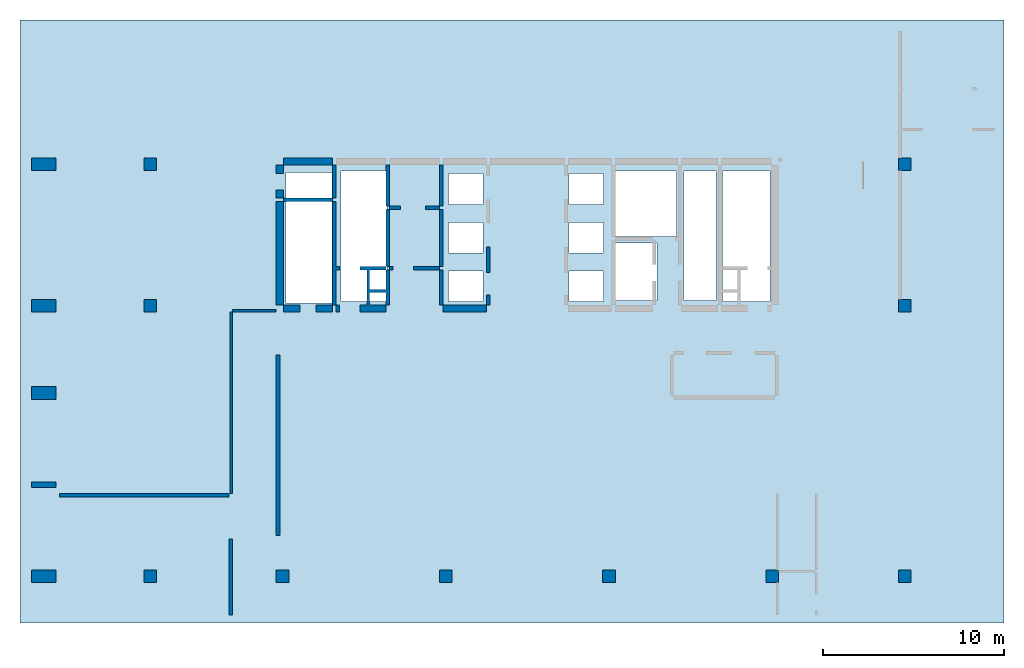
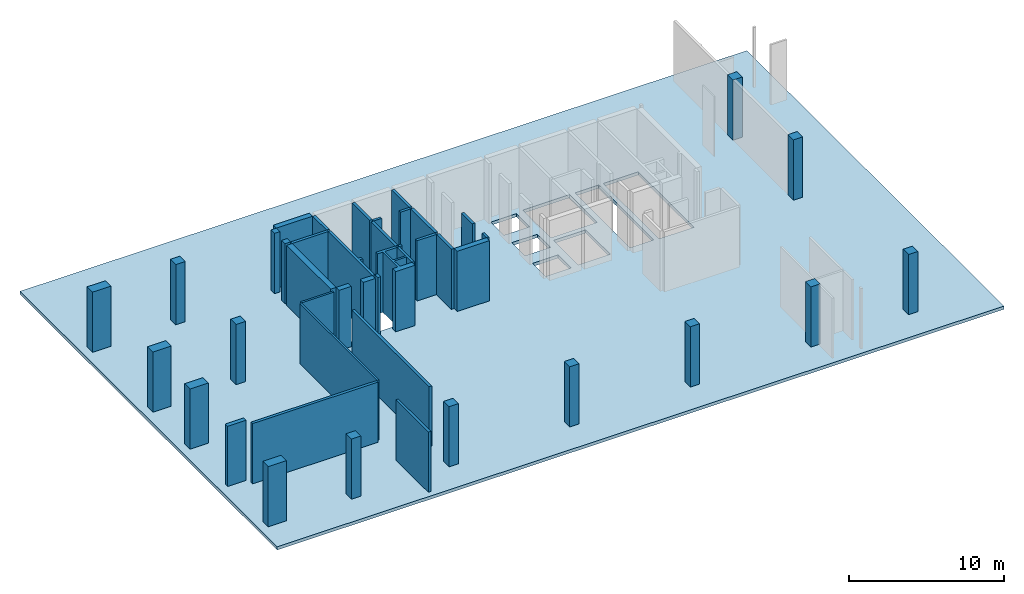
# One storey, part 1 of 2: 29 walls, 14 columns, 1 slab.
"""IFC4 building model written with IfcOpenShell, lengths in millimetres."""

from ifc_helpers import new_model, si_unit, frame, origin, place, context, project, spatial, triangles, element, save


model = new_model("IFC4")

# Units and contexts
model_context = context("Model", 3, precision=0.001, world=origin())
ifc_project = project(units=[si_unit("LENGTHUNIT", "METRE", prefix="MILLI"), si_unit("AREAUNIT", "SQUARE_METRE"), si_unit("VOLUMEUNIT", "CUBIC_METRE")], contexts=[model_context])

# Site, building, storey
site_placement = place(None, origin())
site = spatial("IfcSite", under=ifc_project, at=site_placement, Name="Site", CompositionType="ELEMENT")
building_placement = place(site_placement, origin())
building = spatial("IfcBuilding", under=site, at=building_placement, Name="INNOCEAN", CompositionType="ELEMENT")
storey_placement = place(building_placement, frame((0.0, 0.0, -5000.0)))
storey = spatial("IfcBuildingStorey", under=building, at=storey_placement, Name="B1", CompositionType="ELEMENT", Elevation=-5000.0)

# Columns
column_1_placement = place(storey_placement, origin())
element("IfcColumn", 1, at=column_1_placement, inside=storey, Name="B1_Columns_B1_001", context=model_context, shape_type="Tessellation", body=[
    triangles([(40114.8, 2023.7, 0.0), (40114.8, 2722.3, 4750.0), (40114.8, 2722.3, 0.0), (40114.8, 2023.7, 4750.0), (40813.0, 2722.3, 4750.0), (40813.0, 2023.7, 0.0), (40813.0, 2722.3, 0.0), (40813.0, 2023.7, 4750.0)], [[1, 2, 3], [1, 4, 2], [5, 6, 7], [8, 6, 5], [6, 8, 1], [1, 8, 4], [5, 7, 3], [5, 3, 2], [3, 7, 1], [1, 7, 6], [5, 2, 4], [5, 4, 8]], closed=True),
])
column_2_placement = place(storey_placement, origin())
element("IfcColumn", 2, at=column_2_placement, inside=storey, Name="B1_Columns_B1_002", context=model_context, shape_type="Tessellation", body=[
    triangles([(5843.1, 24721.0, 0.0), (5843.1, 24721.0, 4750.0), (5843.1, 25419.5, 0.0), (5843.1, 25419.5, 4750.0), (6541.2, 24721.0, 4750.0), (6541.2, 24721.0, 0.0), (6541.2, 25419.5, 0.0), (6541.2, 25419.5, 4750.0)], [[1, 2, 3], [3, 2, 4], [5, 6, 7], [5, 7, 8], [6, 5, 1], [1, 5, 2], [8, 7, 3], [8, 3, 4], [1, 3, 6], [3, 7, 6], [4, 2, 5], [8, 4, 5]], closed=True),
])
column_3_placement = place(storey_placement, origin())
element("IfcColumn", 3, at=column_3_placement, inside=storey, Name="B1_Columns_B1_003", context=model_context, shape_type="Tessellation", body=[
    triangles([(5843.1, 16922.4, 0.0), (5843.1, 16922.4, 4750.0), (5843.1, 17620.9, 0.0), (5843.1, 17620.9, 4750.0), (6541.2, 16922.4, 4750.0), (6541.2, 16922.4, 0.0), (6541.2, 17620.9, 0.0), (6541.2, 17620.9, 4750.0)], [[1, 2, 3], [3, 2, 4], [5, 6, 7], [5, 7, 8], [6, 5, 1], [1, 5, 2], [8, 7, 3], [8, 3, 4], [1, 3, 6], [3, 7, 6], [4, 2, 5], [8, 4, 5]], closed=True),
])
column_4_placement = place(storey_placement, origin())
element("IfcColumn", 4, at=column_4_placement, inside=storey, Name="B1_Columns_B1_004", context=model_context, shape_type="Tessellation", body=[
    triangles([(47413.4, 24721.0, 0.0), (47413.4, 24721.0, 4750.0), (47413.4, 25419.5, 0.0), (47413.4, 25419.5, 4750.0), (48111.6, 24721.0, 4750.0), (48111.6, 24721.0, 0.0), (48111.6, 25419.5, 0.0), (48111.6, 25419.5, 4750.0)], [[1, 2, 3], [3, 2, 4], [5, 6, 7], [5, 7, 8], [6, 5, 1], [1, 5, 2], [8, 7, 3], [8, 3, 4], [1, 3, 6], [3, 7, 6], [4, 2, 5], [8, 4, 5]], closed=True),
])
column_5_placement = place(storey_placement, origin())
element("IfcColumn", 5, at=column_5_placement, inside=storey, Name="B1_Columns_B1_005", context=model_context, shape_type="Tessellation", body=[
    triangles([(47413.4, 16922.4, 0.0), (47413.4, 16922.4, 4750.0), (47413.4, 17620.9, 0.0), (47413.4, 17620.9, 4750.0), (48111.6, 16922.4, 4750.0), (48111.6, 16922.4, 0.0), (48111.6, 17620.9, 0.0), (48111.6, 17620.9, 4750.0)], [[1, 2, 3], [3, 2, 4], [5, 6, 7], [5, 7, 8], [6, 5, 1], [1, 5, 2], [8, 7, 3], [8, 3, 4], [1, 3, 6], [3, 7, 6], [4, 2, 5], [8, 4, 5]], closed=True),
])
column_6_placement = place(storey_placement, origin())
element("IfcColumn", 6, at=column_6_placement, inside=storey, Name="B1_Columns_B1_006", context=model_context, shape_type="Tessellation", body=[
    triangles([(13129.0, 2023.7, 0.0), (13129.0, 2722.3, 4750.0), (13129.0, 2722.3, 0.0), (13129.0, 2023.7, 4750.0), (13827.2, 2722.3, 4750.0), (13827.2, 2023.7, 0.0), (13827.2, 2722.3, 0.0), (13827.2, 2023.7, 4750.0)], [[1, 2, 3], [1, 4, 2], [5, 6, 7], [8, 6, 5], [6, 8, 1], [1, 8, 4], [5, 7, 3], [5, 3, 2], [3, 7, 1], [1, 7, 6], [5, 2, 4], [5, 4, 8]], closed=True),
])
column_7_placement = place(storey_placement, origin())
element("IfcColumn", 7, at=column_7_placement, inside=storey, Name="B1_Columns_B1_007", context=model_context, shape_type="Tessellation", body=[
    triangles([(5843.1, 2023.7, 0.0), (5843.1, 2722.3, 4750.0), (5843.1, 2722.3, 0.0), (5843.1, 2023.7, 4750.0), (6541.2, 2722.3, 4750.0), (6541.2, 2023.7, 0.0), (6541.2, 2722.3, 0.0), (6541.2, 2023.7, 4750.0)], [[1, 2, 3], [1, 4, 2], [5, 6, 7], [8, 6, 5], [6, 8, 1], [1, 8, 4], [5, 7, 3], [5, 3, 2], [1, 3, 6], [3, 7, 6], [2, 4, 8], [5, 2, 8]], closed=True),
])
column_8_placement = place(storey_placement, origin())
element("IfcColumn", 8, at=column_8_placement, inside=storey, Name="B1_Columns_B1_008", context=model_context, shape_type="Tessellation", body=[
    triangles([(-363.9, 2023.7, 0.0), (-363.9, 2722.3, 4750.0), (-363.9, 2722.3, 0.0), (-363.9, 2023.7, 4750.0), (994.3, 2722.3, 4750.0), (994.3, 2023.7, 0.0), (994.3, 2722.3, 0.0), (994.3, 2023.7, 4750.0)], [[1, 2, 3], [1, 4, 2], [5, 6, 7], [8, 6, 5], [6, 4, 1], [6, 8, 4], [2, 7, 3], [5, 7, 2], [3, 7, 1], [1, 7, 6], [5, 2, 4], [5, 4, 8]], closed=True),
])
column_9_placement = place(storey_placement, origin())
element("IfcColumn", 9, at=column_9_placement, inside=storey, Name="B1_Columns_B1_009", context=model_context, shape_type="Tessellation", body=[
    triangles([(31128.0, 2023.7, 0.0), (31128.0, 2722.3, 4750.0), (31128.0, 2722.3, 0.0), (31128.0, 2023.7, 4750.0), (31826.2, 2722.3, 4750.0), (31826.2, 2023.7, 0.0), (31826.2, 2722.3, 0.0), (31826.2, 2023.7, 4750.0)], [[1, 2, 3], [1, 4, 2], [5, 6, 7], [8, 6, 5], [6, 8, 1], [1, 8, 4], [5, 7, 3], [5, 3, 2], [3, 7, 1], [1, 7, 6], [5, 2, 4], [5, 4, 8]], closed=True),
])
column_10_placement = place(storey_placement, origin())
element("IfcColumn", 10, at=column_10_placement, inside=storey, Name="B1_Columns_B1_010", context=model_context, shape_type="Tessellation", body=[
    triangles([(22128.5, 2023.7, 0.0), (22128.5, 2722.3, 4750.0), (22128.5, 2722.3, 0.0), (22128.5, 2023.7, 4750.0), (22826.7, 2722.3, 4750.0), (22826.7, 2023.7, 0.0), (22826.7, 2722.3, 0.0), (22826.7, 2023.7, 4750.0)], [[1, 2, 3], [1, 4, 2], [5, 6, 7], [8, 6, 5], [6, 8, 1], [1, 8, 4], [5, 7, 3], [5, 3, 2], [3, 7, 1], [1, 7, 6], [5, 2, 4], [5, 4, 8]], closed=True),
])
column_11_placement = place(storey_placement, origin())
element("IfcColumn", 11, at=column_11_placement, inside=storey, Name="B1_Columns_B1_011", context=model_context, shape_type="Tessellation", body=[
    triangles([(47413.4, 2023.7, 0.0), (47413.4, 2722.3, 4750.0), (47413.4, 2722.3, 0.0), (47413.4, 2023.7, 4750.0), (48111.6, 2722.3, 4750.0), (48111.6, 2023.7, 0.0), (48111.6, 2722.3, 0.0), (48111.6, 2023.7, 4750.0)], [[1, 2, 3], [1, 4, 2], [5, 6, 7], [8, 6, 5], [6, 8, 1], [1, 8, 4], [5, 7, 3], [5, 3, 2], [3, 7, 1], [1, 7, 6], [5, 2, 4], [5, 4, 8]], closed=True),
])
column_12_placement = place(storey_placement, origin())
element("IfcColumn", 12, at=column_12_placement, inside=storey, Name="B1_Columns_B1_012", context=model_context, shape_type="Tessellation", body=[
    triangles([(-363.9, 24721.0, 0.0), (-363.9, 24721.0, 4750.0), (-363.9, 25419.5, 0.0), (-363.9, 25419.5, 4750.0), (994.3, 24721.0, 4750.0), (994.3, 24721.0, 0.0), (994.3, 25419.5, 0.0), (994.3, 25419.5, 4750.0)], [[1, 2, 3], [3, 2, 4], [5, 6, 7], [5, 7, 8], [6, 2, 1], [6, 5, 2], [4, 7, 3], [8, 7, 4], [3, 7, 1], [1, 7, 6], [8, 4, 2], [8, 2, 5]], closed=True),
])
column_13_placement = place(storey_placement, origin())
element("IfcColumn", 13, at=column_13_placement, inside=storey, Name="B1_Columns_B1_013", context=model_context, shape_type="Tessellation", body=[
    triangles([(-363.9, 12121.3, 0.0), (-363.9, 12121.3, 4750.0), (-363.9, 12819.8, 0.0), (-363.9, 12819.8, 4750.0), (994.3, 12121.3, 4750.0), (994.3, 12121.3, 0.0), (994.3, 12819.8, 0.0), (994.3, 12819.8, 4750.0)], [[1, 2, 3], [3, 2, 4], [5, 6, 7], [5, 7, 8], [6, 2, 1], [6, 5, 2], [4, 7, 3], [8, 7, 4], [3, 7, 1], [1, 7, 6], [8, 4, 2], [8, 2, 5]], closed=True),
])
column_14_placement = place(storey_placement, origin())
element("IfcColumn", 14, at=column_14_placement, inside=storey, Name="B1_Columns_B1_014", context=model_context, shape_type="Tessellation", body=[
    triangles([(-363.9, 16922.4, 0.0), (-363.9, 16922.4, 4750.0), (-363.9, 17620.9, 0.0), (-363.9, 17620.9, 4750.0), (994.3, 16922.4, 4750.0), (994.3, 16922.4, 0.0), (994.3, 17620.9, 0.0), (994.3, 17620.9, 4750.0)], [[1, 2, 3], [3, 2, 4], [5, 6, 7], [5, 7, 8], [6, 2, 1], [6, 5, 2], [4, 7, 3], [8, 7, 4], [3, 7, 1], [1, 7, 6], [8, 4, 2], [8, 2, 5]], closed=True),
])

# Slab
slab_placement = place(storey_placement, origin())
element("IfcSlab", 15, at=slab_placement, inside=storey, Name="B1_Slab_B1_001", context=model_context, shape_type="Tessellation", body=[
    triangles([(-987.250996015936, 33023.3766233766, 0.0), (53241.0358565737, 33023.3766233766, 0.0), (-987.250996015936, 33023.3766233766, -250.0), (53241.0358565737, 33023.3766233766, -250.0), (-987.250996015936, -211.688311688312, 0.0), (-987.250996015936, -211.688311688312, -250.0), (53241.0358565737, -211.688311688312, 0.0), (53241.0358565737, -211.688311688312, -250.0), (34130.6772908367, 20745.4545454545, -250.0), (31733.0677290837, 20745.4545454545, 0.0), (31733.0677290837, 20745.4545454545, -250.0), (34130.6772908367, 20745.4545454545, 0.0), (31733.0677290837, 17570.1298701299, 0.0), (31733.0677290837, 17570.1298701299, -250.0), (34130.6772908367, 17570.1298701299, 0.0), (34130.6772908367, 17570.1298701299, -250.0), (31168.9243027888, 19193.0735930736, 0.0), (29264.9402390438, 19193.0735930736, 0.0), (29264.9402390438, 19193.0735930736, -250.0), (31168.9243027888, 19193.0735930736, -250.0), (31168.9243027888, 17499.5670995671, 0.0), (31168.9243027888, 17499.5670995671, -250.0), (29264.9402390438, 17499.5670995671, 0.0), (29264.9402390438, 17499.5670995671, -250.0), (31168.9243027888, 21874.4588744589, 0.0), (29264.9402390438, 21874.4588744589, 0.0), (29264.9402390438, 21874.4588744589, -250.0), (31168.9243027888, 21874.4588744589, -250.0), (29264.9402390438, 20180.9523809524, 0.0), (29264.9402390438, 20180.9523809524, -250.0), (31168.9243027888, 20180.9523809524, 0.0), (31168.9243027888, 20180.9523809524, -250.0), (24540.2390438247, 19193.0735930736, -250.0), (22636.2549800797, 19193.0735930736, 0.0), (22636.2549800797, 19193.0735930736, -250.0), (24540.2390438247, 19193.0735930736, 0.0), (22636.2549800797, 17499.5670995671, 0.0), (22636.2549800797, 17499.5670995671, -250.0), (24540.2390438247, 17499.5670995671, 0.0), (24540.2390438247, 17499.5670995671, -250.0), (24540.2390438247, 21874.4588744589, -250.0), (22636.2549800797, 21874.4588744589, 0.0), (22636.2549800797, 21874.4588744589, -250.0), (24540.2390438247, 21874.4588744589, 0.0), (22636.2549800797, 20180.9523809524, 0.0), (22636.2549800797, 20180.9523809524, -250.0), (24540.2390438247, 20180.9523809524, 0.0), (24540.2390438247, 20180.9523809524, -250.0), (16219.1235059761, 24626.4069264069, 0.0), (13680.4780876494, 24626.4069264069, 0.0), (13680.4780876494, 24626.4069264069, -250.0), (16219.1235059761, 24626.4069264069, -250.0), (13680.4780876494, 17429.0043290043, 0.0), (13680.4780876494, 17429.0043290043, -250.0), (16219.1235059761, 17429.0043290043, 0.0), (16219.1235059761, 17429.0043290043, -250.0), (40336.2549800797, 24696.9696969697, -250.0), (37727.0916334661, 24696.9696969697, 0.0), (37727.0916334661, 24696.9696969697, -250.0), (40336.2549800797, 24696.9696969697, 0.0), (37727.0916334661, 17499.5670995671, 0.0), (37727.0916334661, 17499.5670995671, -250.0), (40336.2549800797, 17499.5670995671, 0.0), (40336.2549800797, 17499.5670995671, -250.0), (37374.5019920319, 24696.9696969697, 0.0), (35611.5537848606, 24696.9696969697, 0.0), (35611.5537848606, 24696.9696969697, -250.0), (37374.5019920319, 24696.9696969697, -250.0), (35611.5537848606, 17570.1298701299, 0.0), (35611.5537848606, 17570.1298701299, -250.0), (37374.5019920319, 17570.1298701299, 0.0), (37374.5019920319, 17570.1298701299, -250.0), (35188.4462151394, 24696.9696969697, 0.0), (31733.0677290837, 24696.9696969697, 0.0), (31733.0677290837, 24696.9696969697, -250.0), (35188.4462151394, 24696.9696969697, -250.0), (31733.0677290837, 21098.2683982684, 0.0), (31733.0677290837, 21098.2683982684, -250.0), (35188.4462151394, 21098.2683982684, 0.0), (35188.4462151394, 21098.2683982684, -250.0), (31168.9243027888, 24555.8441558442, 0.0), (29264.9402390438, 24555.8441558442, 0.0), (29264.9402390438, 24555.8441558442, -250.0), (31168.9243027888, 24555.8441558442, -250.0), (29264.9402390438, 22862.3376623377, 0.0), (29264.9402390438, 22862.3376623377, -250.0), (31168.9243027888, 22862.3376623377, 0.0), (31168.9243027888, 22862.3376623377, -250.0), (19251.3944223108, 24696.9696969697, 0.0), (16712.7490039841, 24696.9696969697, 0.0), (16712.7490039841, 24696.9696969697, -250.0), (19251.3944223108, 24696.9696969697, -250.0), (16712.7490039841, 17499.5670995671, 0.0), (16712.7490039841, 17499.5670995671, -250.0), (19251.3944223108, 17499.5670995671, 0.0), (19251.3944223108, 17499.5670995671, -250.0), (24540.2390438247, 24555.8441558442, -250.0), (22636.2549800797, 24555.8441558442, 0.0), (22636.2549800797, 24555.8441558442, -250.0), (24540.2390438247, 24555.8441558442, 0.0), (22636.2549800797, 22862.3376623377, 0.0), (22636.2549800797, 22862.3376623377, -250.0), (24540.2390438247, 22862.3376623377, 0.0), (24540.2390438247, 22862.3376623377, -250.0)], [[1, 2, 3], [3, 2, 4], [5, 1, 6], [6, 1, 3], [2, 7, 4], [4, 7, 8], [7, 5, 8], [8, 5, 6], [9, 10, 11], [12, 10, 9], [10, 13, 14], [10, 14, 11], [15, 12, 9], [15, 9, 16], [14, 15, 16], [13, 15, 14], [17, 18, 19], [17, 19, 20], [21, 17, 20], [21, 20, 22], [23, 21, 22], [23, 22, 24], [18, 23, 24], [18, 24, 19], [25, 26, 27], [25, 27, 28], [26, 29, 30], [26, 30, 27], [31, 25, 28], [31, 28, 32], [29, 31, 32], [29, 32, 30], [33, 34, 35], [36, 34, 33], [34, 37, 38], [34, 38, 35], [39, 36, 33], [39, 33, 40], [38, 39, 40], [37, 39, 38], [41, 42, 43], [44, 42, 41], [42, 45, 46], [42, 46, 43], [47, 44, 41], [47, 41, 48], [46, 47, 48], [45, 47, 46], [49, 50, 51], [49, 51, 52], [50, 53, 54], [50, 54, 51], [55, 49, 52], [55, 52, 56], [53, 55, 56], [53, 56, 54], [57, 58, 59], [60, 58, 57], [58, 61, 62], [58, 62, 59], [63, 60, 57], [63, 57, 64], [62, 63, 64], [61, 63, 62], [65, 66, 67], [65, 67, 68], [66, 69, 70], [66, 70, 67], [71, 65, 68], [71, 68, 72], [69, 71, 72], [69, 72, 70], [73, 74, 75], [73, 75, 76], [74, 77, 78], [74, 78, 75], [79, 73, 76], [79, 76, 80], [77, 79, 80], [77, 80, 78], [81, 82, 83], [81, 83, 84], [82, 85, 86], [82, 86, 83], [87, 81, 84], [87, 84, 88], [85, 87, 88], [85, 88, 86], [89, 90, 91], [89, 91, 92], [90, 93, 94], [90, 94, 91], [95, 89, 92], [95, 92, 96], [93, 95, 96], [93, 96, 94], [97, 98, 99], [100, 98, 97], [98, 101, 102], [98, 102, 99], [103, 100, 97], [103, 97, 104], [102, 103, 104], [101, 103, 102], [63, 61, 7], [7, 2, 63], [71, 69, 61], [61, 69, 7], [69, 15, 7], [2, 60, 63], [13, 21, 15], [15, 21, 7], [79, 12, 69], [69, 12, 15], [2, 58, 60], [2, 65, 58], [13, 17, 21], [21, 23, 7], [17, 10, 31], [2, 66, 65], [12, 77, 10], [10, 77, 31], [2, 73, 66], [66, 73, 79], [31, 18, 17], [77, 25, 31], [31, 29, 18], [77, 87, 25], [23, 39, 7], [2, 74, 73], [74, 81, 87], [87, 85, 25], [25, 85, 26], [23, 36, 39], [18, 36, 23], [74, 82, 81], [29, 47, 18], [18, 47, 36], [26, 44, 29], [29, 44, 47], [47, 45, 36], [36, 45, 34], [34, 95, 37], [45, 95, 34], [85, 103, 26], [26, 103, 44], [82, 103, 85], [45, 42, 95], [103, 42, 44], [82, 100, 103], [103, 101, 42], [39, 5, 7], [37, 5, 39], [95, 5, 37], [95, 55, 5], [93, 55, 95], [55, 53, 5], [101, 89, 42], [42, 89, 95], [98, 89, 101], [90, 49, 93], [93, 49, 55], [90, 50, 49], [50, 1, 53], [89, 1, 90], [53, 1, 5], [90, 1, 50], [2, 1, 74], [74, 1, 82], [82, 1, 100], [100, 1, 98], [98, 1, 89], [13, 10, 17], [69, 66, 79], [65, 71, 58], [58, 71, 61], [77, 74, 87], [79, 77, 12], [62, 64, 8], [4, 8, 64], [70, 72, 62], [70, 62, 8], [16, 70, 8], [57, 4, 64], [22, 14, 16], [22, 16, 8], [9, 80, 70], [9, 70, 16], [59, 4, 57], [68, 4, 59], [20, 14, 22], [24, 22, 8], [11, 20, 32], [67, 4, 68], [78, 9, 11], [78, 11, 32], [76, 4, 67], [76, 67, 80], [19, 32, 20], [28, 78, 32], [30, 32, 19], [88, 78, 28], [40, 24, 8], [75, 4, 76], [84, 75, 88], [86, 88, 28], [86, 28, 27], [33, 24, 40], [33, 19, 24], [83, 75, 84], [48, 30, 19], [48, 19, 33], [41, 27, 30], [41, 30, 48], [46, 48, 33], [46, 33, 35], [96, 35, 38], [96, 46, 35], [104, 86, 27], [104, 27, 41], [104, 83, 86], [43, 46, 96], [43, 104, 41], [97, 83, 104], [102, 104, 43], [6, 40, 8], [6, 38, 40], [6, 96, 38], [56, 96, 6], [56, 94, 96], [54, 56, 6], [92, 102, 43], [92, 43, 96], [92, 99, 102], [52, 91, 94], [52, 94, 56], [51, 91, 52], [3, 51, 54], [3, 92, 91], [3, 54, 6], [3, 91, 51], [3, 4, 75], [3, 75, 83], [3, 83, 97], [3, 97, 99], [3, 99, 92], [11, 14, 20], [67, 70, 80], [72, 68, 59], [72, 59, 62], [75, 78, 88], [78, 80, 9]], closed=True),
])

# Walls
wall_1_placement = place(storey_placement, origin())
element("IfcWall", 16, at=wall_1_placement, inside=storey, Name="B1_Walls_B1_001", context=model_context, shape_type="Tessellation", body=[
    triangles([(10730.0, 4424.3, 0.0), (10539.6, 4424.3, 0.0), (10539.6, 4424.3, 4750.0), (10730.0, 4424.3, 4750.0), (10730.0, 220.2, 0.0), (10730.0, 220.2, 4750.0), (10539.6, 220.2, 0.0), (10539.6, 220.2, 4750.0)], [[1, 2, 3], [1, 3, 4], [5, 1, 4], [5, 4, 6], [7, 5, 6], [7, 6, 8], [2, 7, 8], [2, 8, 3], [2, 1, 5], [2, 5, 7], [4, 3, 6], [6, 3, 8]], closed=True),
])
wall_2_placement = place(storey_placement, origin())
element("IfcWall", 17, at=wall_2_placement, inside=storey, Name="B1_Walls_B1_002", context=model_context, shape_type="Tessellation", body=[
    triangles([(10539.6, 6723.2, 0.0), (10539.6, 6926.4, 0.0), (10539.6, 6926.4, 4750.0), (10539.6, 6723.2, 4750.0), (1184.7, 6723.2, 0.0), (1184.7, 6723.2, 4750.0), (1184.7, 6926.4, 0.0), (1184.7, 6926.4, 4750.0)], [[1, 2, 3], [1, 3, 4], [5, 1, 4], [5, 4, 6], [7, 5, 6], [7, 6, 8], [2, 7, 8], [2, 8, 3], [5, 2, 1], [7, 2, 5], [3, 6, 4], [3, 8, 6]], closed=True),
])
wall_3_placement = place(storey_placement, origin())
element("IfcWall", 18, at=wall_3_placement, inside=storey, Name="B1_Walls_B1_003", context=model_context, shape_type="Tessellation", body=[
    triangles([(994.3, 7574.2, 0.0), (994.3, 7574.2, 4750.0), (994.3, 7269.4, 4750.0), (994.3, 7269.4, 0.0), (-363.9, 7269.4, 4750.0), (-363.9, 7269.4, 0.0), (-363.9, 7574.2, 4750.0), (-363.9, 7574.2, 0.0)], [[1, 2, 3], [4, 1, 3], [4, 3, 5], [6, 4, 5], [6, 5, 7], [8, 6, 7], [8, 7, 2], [1, 8, 2], [8, 1, 4], [8, 4, 6], [2, 7, 3], [3, 7, 5]], closed=True),
])
wall_4_placement = place(storey_placement, origin())
element("IfcWall", 19, at=wall_4_placement, inside=storey, Name="B1_Walls_B1_004", context=model_context, shape_type="Tessellation", body=[
    triangles([(13129.0, 12819.8, 4750.0), (13129.0, 4614.8, 0.0), (13129.0, 4614.8, 4750.0), (13129.0, 12819.8, 0.0), (13129.0, 14572.6, 0.0), (13129.0, 14572.6, 4750.0), (13332.1, 14572.6, 0.0), (13332.1, 14572.6, 4750.0), (13332.1, 12819.8, 0.0), (13332.1, 12819.8, 4750.0), (13332.1, 4614.8, 4750.0), (13332.1, 4614.8, 0.0)], [[1, 2, 3], [4, 2, 1], [5, 4, 1], [5, 1, 6], [7, 5, 6], [7, 6, 8], [9, 7, 8], [9, 8, 10], [11, 9, 10], [12, 9, 11], [2, 12, 11], [2, 11, 3], [9, 12, 2], [4, 9, 2], [5, 7, 9], [5, 9, 4], [11, 10, 3], [10, 1, 3], [8, 6, 10], [10, 6, 1]], closed=True),
])
wall_5_placement = place(storey_placement, origin())
element("IfcWall", 20, at=wall_5_placement, inside=storey, Name="B1_Walls_B1_005", context=model_context, shape_type="Tessellation", body=[
    triangles([(10730.0, 6926.4, 0.0), (10730.0, 16922.4, 0.0), (10730.0, 16922.4, 4750.0), (10730.0, 6926.4, 4750.0), (10590.4, 6926.4, 0.0), (10590.4, 6926.4, 4750.0), (10590.4, 16922.4, 4750.0), (10590.4, 16922.4, 0.0)], [[1, 2, 3], [1, 3, 4], [5, 1, 4], [5, 4, 6], [7, 5, 6], [8, 5, 7], [2, 8, 7], [2, 7, 3], [2, 1, 5], [8, 2, 5], [4, 3, 6], [3, 7, 6]], closed=True),
])
wall_6_placement = place(storey_placement, origin())
element("IfcWall", 21, at=wall_6_placement, inside=storey, Name="B1_Walls_B1_006", context=model_context, shape_type="Tessellation", body=[
    triangles([(13129.0, 17074.8, 0.0), (13129.0, 17074.8, 4750.0), (13129.0, 16922.4, 4750.0), (13129.0, 16922.4, 0.0), (10730.0, 16922.4, 0.0), (10730.0, 16922.4, 4750.0), (10730.0, 17074.8, 4750.0), (10730.0, 17074.8, 0.0)], [[1, 2, 3], [4, 1, 3], [5, 4, 3], [5, 3, 6], [5, 6, 7], [8, 5, 7], [1, 8, 7], [1, 7, 2], [8, 1, 4], [8, 4, 5], [2, 7, 3], [3, 7, 6]], closed=True),
])
wall_7_placement = place(storey_placement, origin())
element("IfcWall", 22, at=wall_7_placement, inside=storey, Name="B1_Walls_B1_007", context=model_context, shape_type="Tessellation", body=[
    triangles([(14436.4, 17316.1, 0.0), (13535.2, 17316.1, 0.0), (13535.2, 17316.1, 4750.0), (14436.4, 17316.1, 4750.0), (14436.4, 16922.4, 0.0), (14436.4, 16922.4, 4750.0), (13535.2, 16922.4, 0.0), (13535.2, 16922.4, 4750.0)], [[1, 2, 3], [1, 3, 4], [5, 1, 4], [5, 4, 6], [7, 5, 6], [7, 6, 8], [2, 7, 8], [2, 8, 3], [2, 1, 5], [2, 5, 7], [4, 3, 6], [6, 3, 8]], closed=True),
])
wall_8_placement = place(storey_placement, origin())
element("IfcWall", 23, at=wall_8_placement, inside=storey, Name="B1_Walls_B1_008", context=model_context, shape_type="Tessellation", body=[
    triangles([(16226.2, 16922.4, 0.0), (16226.2, 17316.1, 0.0), (16226.2, 17316.1, 4750.0), (16226.2, 16922.4, 4750.0), (15337.6, 16922.4, 0.0), (15337.6, 16922.4, 4750.0), (15337.6, 17316.1, 0.0), (15337.6, 17316.1, 4750.0)], [[1, 2, 3], [1, 3, 4], [5, 1, 4], [5, 4, 6], [7, 5, 6], [7, 6, 8], [2, 7, 8], [2, 8, 3], [7, 2, 1], [7, 1, 5], [3, 8, 4], [4, 8, 6]], closed=True),
])
wall_9_placement = place(storey_placement, origin())
element("IfcWall", 24, at=wall_9_placement, inside=storey, Name="B1_Walls_B1_009", context=model_context, shape_type="Tessellation", body=[
    triangles([(16632.4, 16922.4, 0.0), (16632.4, 17316.1, 0.0), (16632.4, 17316.1, 4750.0), (16632.4, 16922.4, 4750.0), (16429.3, 16922.4, 0.0), (16429.3, 16922.4, 4750.0), (16429.3, 17316.1, 0.0), (16429.3, 17316.1, 4750.0)], [[1, 2, 3], [1, 3, 4], [5, 1, 4], [5, 4, 6], [7, 5, 6], [7, 6, 8], [2, 7, 8], [2, 8, 3], [7, 2, 1], [7, 1, 5], [3, 8, 4], [4, 8, 6]], closed=True),
])
wall_10_placement = place(storey_placement, origin())
element("IfcWall", 25, at=wall_10_placement, inside=storey, Name="B1_Walls_B1_010", context=model_context, shape_type="Tessellation", body=[
    triangles([(18130.2, 19246.7, 0.0), (18130.2, 19245.0, 0.0), (18130.2, 19245.0, 4750.0), (18130.2, 19246.7, 4750.0), (18130.0, 19245.0, 0.0), (18130.0, 19245.0, 4750.0), (18130.0, 17316.1, 0.0), (18130.0, 17316.1, 4750.0), (17749.4, 17316.1, 0.0), (17749.4, 17316.1, 4750.0), (17749.4, 16922.4, 0.0), (17749.4, 16922.4, 4750.0), (19183.7, 16922.4, 0.0), (19183.7, 16922.4, 4750.0), (19183.7, 17316.1, 0.0), (19183.7, 17316.1, 4750.0), (19374.1, 17316.1, 0.0), (19374.1, 17316.1, 4750.0), (19374.1, 19246.7, 0.0), (19374.1, 19246.7, 4750.0), (19183.7, 19246.7, 0.0), (19183.7, 19246.7, 4750.0), (19183.7, 19449.9, 0.0), (19183.7, 19449.9, 4750.0), (17749.4, 19449.9, 0.0), (17749.4, 19449.9, 4750.0), (17749.4, 19246.7, 0.0), (17749.4, 19246.7, 4750.0), (18282.5, 17316.1, 0.0), (18282.5, 17316.1, 4750.0), (18282.5, 18014.7, 0.0), (18282.5, 18014.7, 4750.0), (19183.7, 18014.7, 0.0), (19183.7, 18014.7, 4750.0), (19183.7, 18167.1, 0.0), (19183.7, 18167.1, 4750.0), (18282.5, 18167.1, 0.0), (18282.5, 18167.1, 4750.0), (18282.5, 19246.7, 0.0), (18282.5, 19246.7, 4750.0)], [[1, 2, 3], [1, 3, 4], [2, 5, 6], [2, 6, 3], [7, 8, 6], [5, 7, 6], [9, 10, 8], [7, 9, 8], [9, 11, 12], [9, 12, 10], [11, 13, 14], [11, 14, 12], [13, 15, 16], [13, 16, 14], [17, 18, 16], [15, 17, 16], [17, 19, 20], [17, 20, 18], [21, 22, 20], [19, 21, 20], [23, 24, 22], [21, 23, 22], [23, 25, 26], [23, 26, 24], [27, 28, 26], [25, 27, 26], [1, 4, 28], [27, 1, 28], [29, 30, 16], [15, 29, 16], [29, 31, 32], [29, 32, 30], [33, 34, 32], [31, 33, 32], [33, 15, 16], [33, 16, 34], [21, 35, 36], [21, 36, 22], [37, 38, 36], [35, 37, 36], [37, 39, 40], [37, 40, 38], [21, 22, 40], [39, 21, 40], [33, 17, 15], [35, 17, 33], [29, 15, 13], [11, 29, 13], [7, 29, 11], [9, 7, 11], [31, 35, 33], [31, 29, 7], [19, 17, 35], [37, 35, 31], [21, 19, 35], [39, 23, 21], [2, 39, 37], [5, 2, 37], [1, 39, 2], [25, 1, 27], [25, 23, 39], [25, 39, 1], [7, 5, 37], [7, 37, 31], [18, 34, 16], [18, 36, 34], [16, 30, 14], [30, 12, 14], [30, 8, 12], [8, 10, 12], [36, 32, 34], [30, 32, 8], [18, 20, 36], [36, 38, 32], [20, 22, 36], [24, 40, 22], [40, 3, 38], [3, 6, 38], [40, 4, 3], [4, 26, 28], [24, 26, 40], [40, 26, 4], [6, 8, 38], [38, 8, 32]], closed=True),
])
wall_11_placement = place(storey_placement, origin())
element("IfcWall", 26, at=wall_11_placement, inside=storey, Name="B1_Walls_B1_011", context=model_context, shape_type="Tessellation", body=[
    triangles([(16429.3, 23019.0, 0.0), (16429.3, 23019.0, 4750.0), (16429.3, 19449.9, 4750.0), (16429.3, 19449.9, 0.0), (16632.4, 19449.9, 0.0), (16632.4, 19449.9, 4750.0), (16632.4, 19246.7, 4750.0), (16632.4, 19246.7, 0.0), (16429.3, 19246.7, 0.0), (16429.3, 19246.7, 4750.0), (16429.3, 17316.1, 0.0), (16429.3, 17316.1, 4750.0), (16226.2, 17316.1, 0.0), (16226.2, 17316.1, 4750.0), (16226.2, 19246.7, 0.0), (16226.2, 19246.7, 4750.0), (16226.2, 19449.9, 4750.0), (16226.2, 19449.9, 0.0), (16226.2, 23019.0, 4750.0), (16226.2, 23019.0, 0.0)], [[1, 2, 3], [4, 1, 3], [5, 4, 3], [5, 3, 6], [5, 6, 7], [8, 5, 7], [9, 8, 7], [9, 7, 10], [11, 9, 10], [11, 10, 12], [13, 11, 12], [13, 12, 14], [15, 13, 14], [15, 14, 16], [15, 16, 17], [18, 15, 17], [18, 17, 19], [20, 18, 19], [1, 20, 19], [1, 19, 2], [15, 9, 11], [15, 11, 13], [4, 5, 8], [4, 8, 9], [18, 4, 9], [18, 9, 15], [1, 4, 18], [20, 1, 18], [10, 16, 12], [12, 16, 14], [6, 3, 7], [7, 3, 10], [3, 17, 10], [10, 17, 16], [3, 2, 17], [2, 19, 17]], closed=True),
])
wall_12_placement = place(storey_placement, origin())
element("IfcWall", 27, at=wall_12_placement, inside=storey, Name="B1_Walls_B1_012", context=model_context, shape_type="Tessellation", body=[
    triangles([(13535.2, 17316.1, 0.0), (13535.2, 23019.0, 0.0), (13535.2, 23019.0, 4750.0), (13535.2, 17316.1, 4750.0), (13129.0, 17316.1, 0.0), (13129.0, 17316.1, 4750.0), (13129.0, 23019.0, 0.0), (13129.0, 23019.0, 4750.0)], [[1, 2, 3], [1, 3, 4], [5, 1, 4], [5, 4, 6], [7, 5, 6], [7, 6, 8], [2, 7, 8], [2, 8, 3], [7, 2, 1], [7, 1, 5], [3, 8, 4], [4, 8, 6]], closed=True),
])
wall_13_placement = place(storey_placement, origin())
element("IfcWall", 28, at=wall_13_placement, inside=storey, Name="B1_Walls_B1_013", context=model_context, shape_type="Tessellation", body=[
    triangles([(19374.1, 19449.9, 0.0), (19374.1, 22574.4, 0.0), (19374.1, 22574.4, 4750.0), (19374.1, 19449.9, 4750.0), (19183.7, 19449.9, 4750.0), (19183.7, 19449.9, 0.0), (19183.7, 22574.4, 0.0), (19183.7, 22574.4, 4750.0)], [[1, 2, 3], [1, 3, 4], [1, 4, 5], [6, 1, 5], [7, 6, 5], [7, 5, 8], [7, 8, 3], [2, 7, 3], [2, 1, 6], [7, 2, 6], [4, 3, 5], [3, 8, 5]], closed=True),
])
wall_14_placement = place(storey_placement, origin())
element("IfcWall", 29, at=wall_14_placement, inside=storey, Name="B1_Walls_B1_014", context=model_context, shape_type="Tessellation", body=[
    triangles([(13535.2, 23019.0, 0.0), (13535.2, 23019.0, 4750.0), (13535.2, 23222.2, 4750.0), (13535.2, 23222.2, 0.0), (16226.2, 23222.2, 0.0), (16226.2, 23222.2, 4750.0), (16226.2, 23019.0, 4750.0), (16226.2, 23019.0, 0.0)], [[1, 2, 3], [4, 1, 3], [5, 4, 3], [5, 3, 6], [5, 6, 7], [8, 5, 7], [1, 8, 7], [1, 7, 2], [4, 5, 8], [4, 8, 1], [6, 3, 7], [7, 3, 2]], closed=True),
])
wall_15_placement = place(storey_placement, origin())
element("IfcWall", 30, at=wall_15_placement, inside=storey, Name="B1_Walls_B1_015", context=model_context, shape_type="Tessellation", body=[
    triangles([(13535.2, 23222.2, 0.0), (13535.2, 23666.8, 0.0), (13535.2, 23666.8, 4750.0), (13535.2, 23222.2, 4750.0), (13129.0, 23222.2, 0.0), (13129.0, 23222.2, 4750.0), (13129.0, 23666.8, 0.0), (13129.0, 23666.8, 4750.0)], [[1, 2, 3], [1, 3, 4], [5, 1, 4], [5, 4, 6], [7, 5, 6], [7, 6, 8], [2, 7, 8], [2, 8, 3], [7, 2, 1], [7, 1, 5], [3, 8, 4], [4, 8, 6]], closed=True),
])
wall_16_placement = place(storey_placement, origin())
element("IfcWall", 31, at=wall_16_placement, inside=storey, Name="B1_Walls_B1_016", context=model_context, shape_type="Tessellation", body=[
    triangles([(16429.3, 23222.2, 0.0), (16429.3, 25025.8, 0.0), (16429.3, 25025.8, 4750.0), (16429.3, 23222.2, 4750.0), (16226.2, 23222.2, 0.0), (16226.2, 23222.2, 4750.0), (16226.2, 25025.8, 0.0), (16226.2, 25025.8, 4750.0)], [[1, 2, 3], [1, 3, 4], [5, 1, 4], [5, 4, 6], [7, 5, 6], [7, 6, 8], [2, 7, 8], [2, 8, 3], [7, 2, 1], [7, 1, 5], [3, 8, 4], [4, 8, 6]], closed=True),
])
wall_17_placement = place(storey_placement, origin())
element("IfcWall", 32, at=wall_17_placement, inside=storey, Name="B1_Walls_B1_017", context=model_context, shape_type="Tessellation", body=[
    triangles([(13535.2, 24568.5, 0.0), (13535.2, 25025.8, 0.0), (13535.2, 25025.8, 4750.0), (13535.2, 24568.5, 4750.0), (13129.0, 24568.5, 0.0), (13129.0, 24568.5, 4750.0), (13129.0, 25025.8, 0.0), (13129.0, 25025.8, 4750.0)], [[1, 2, 3], [1, 3, 4], [5, 1, 4], [5, 4, 6], [7, 5, 6], [7, 6, 8], [2, 7, 8], [2, 8, 3], [7, 2, 1], [7, 1, 5], [3, 8, 4], [4, 8, 6]], closed=True),
])
wall_18_placement = place(storey_placement, origin())
element("IfcWall", 33, at=wall_18_placement, inside=storey, Name="B1_Walls_B1_018", context=model_context, shape_type="Tessellation", body=[
    triangles([(16226.2, 25025.8, 0.0), (16226.2, 25419.5, 0.0), (16226.2, 25419.5, 4750.0), (16226.2, 25025.8, 4750.0), (13535.2, 25025.8, 0.0), (13535.2, 25025.8, 4750.0), (13535.2, 25419.5, 0.0), (13535.2, 25419.5, 4750.0)], [[1, 2, 3], [1, 3, 4], [5, 1, 4], [5, 4, 6], [7, 5, 6], [7, 6, 8], [2, 7, 8], [2, 8, 3], [5, 2, 1], [7, 2, 5], [3, 6, 4], [3, 8, 6]], closed=True),
])
wall_19_placement = place(storey_placement, origin())
element("IfcWall", 34, at=wall_19_placement, inside=storey, Name="B1_Walls_B1_020", context=model_context, shape_type="Tessellation", body=[
    triangles([(22331.6, 17316.1, 0.0), (22331.6, 16922.4, 0.0), (22331.6, 16922.4, 4750.0), (22331.6, 17316.1, 4750.0), (24730.6, 17316.1, 0.0), (24730.6, 17316.1, 4750.0), (24730.6, 16922.4, 0.0), (24730.6, 16922.4, 4750.0)], [[1, 2, 3], [1, 3, 4], [5, 1, 4], [5, 4, 6], [7, 5, 6], [7, 6, 8], [2, 7, 8], [2, 8, 3], [1, 5, 7], [1, 7, 2], [6, 4, 8], [8, 4, 3]], closed=True),
])
wall_20_placement = place(storey_placement, origin())
element("IfcWall", 35, at=wall_20_placement, inside=storey, Name="B1_Walls_B1_022", context=model_context, shape_type="Tessellation", body=[
    triangles([(24921.0, 17875.0, 0.0), (24921.0, 17875.0, 4750.0), (24921.0, 17316.1, 4750.0), (24921.0, 17316.1, 0.0), (24730.6, 17316.1, 0.0), (24730.6, 17316.1, 4750.0), (24730.6, 17875.0, 4750.0), (24730.6, 17875.0, 0.0)], [[1, 2, 3], [4, 1, 3], [5, 4, 3], [5, 3, 6], [5, 6, 7], [8, 5, 7], [1, 8, 7], [1, 7, 2], [8, 1, 4], [8, 4, 5], [2, 7, 3], [3, 7, 6]], closed=True),
])
wall_21_placement = place(storey_placement, origin())
element("IfcWall", 36, at=wall_21_placement, inside=storey, Name="B1_Walls_B1_024", context=model_context, shape_type="Tessellation", body=[
    triangles([(22331.6, 17316.1, 0.0), (22331.6, 19246.7, 0.0), (22331.6, 19246.7, 4750.0), (22331.6, 17316.1, 4750.0), (22128.5, 17316.1, 0.0), (22128.5, 17316.1, 4750.0), (22128.5, 19246.7, 0.0), (22128.5, 19246.7, 4750.0)], [[1, 2, 3], [1, 3, 4], [5, 1, 4], [5, 4, 6], [7, 5, 6], [7, 6, 8], [2, 7, 8], [2, 8, 3], [7, 2, 1], [7, 1, 5], [3, 8, 4], [4, 8, 6]], closed=True),
])
wall_22_placement = place(storey_placement, origin())
element("IfcWall", 37, at=wall_22_placement, inside=storey, Name="B1_Walls_B1_025", context=model_context, shape_type="Tessellation", body=[
    triangles([(19577.2, 19449.9, 0.0), (19577.2, 19449.9, 4750.0), (19577.2, 19246.7, 4750.0), (19577.2, 19246.7, 0.0), (19374.1, 19246.7, 0.0), (19374.1, 19246.7, 4750.0), (19374.1, 19449.9, 4750.0), (19374.1, 19449.9, 0.0)], [[1, 2, 3], [4, 1, 3], [5, 4, 3], [5, 3, 6], [5, 6, 7], [8, 5, 7], [1, 8, 7], [1, 7, 2], [8, 1, 4], [8, 4, 5], [2, 7, 3], [3, 7, 6]], closed=True),
])
wall_23_placement = place(storey_placement, origin())
element("IfcWall", 38, at=wall_23_placement, inside=storey, Name="B1_Walls_B1_026", context=model_context, shape_type="Tessellation", body=[
    triangles([(22128.5, 19449.9, 0.0), (22128.5, 19449.9, 4750.0), (22128.5, 19246.7, 4750.0), (22128.5, 19246.7, 0.0), (20694.2, 19246.7, 0.0), (20694.2, 19246.7, 4750.0), (20694.2, 19449.9, 4750.0), (20694.2, 19449.9, 0.0)], [[1, 2, 3], [4, 1, 3], [5, 4, 3], [5, 3, 6], [5, 6, 7], [8, 5, 7], [1, 8, 7], [1, 7, 2], [8, 1, 4], [8, 4, 5], [2, 7, 3], [3, 7, 6]], closed=True),
])
wall_24_placement = place(storey_placement, origin())
element("IfcWall", 39, at=wall_24_placement, inside=storey, Name="B1_Walls_B1_027", context=model_context, shape_type="Tessellation", body=[
    triangles([(24921.0, 19119.7, 0.0), (24921.0, 20516.8, 0.0), (24921.0, 20516.8, 4750.0), (24921.0, 19119.7, 4750.0), (24730.6, 19119.7, 0.0), (24730.6, 19119.7, 4750.0), (24730.6, 19120.0, 0.0), (24730.6, 19120.0, 4750.0), (24730.0, 19120.0, 0.0), (24730.0, 19120.0, 4750.0), (24730.0, 20515.0, 0.0), (24730.0, 20515.0, 4750.0), (24730.6, 20515.0, 0.0), (24730.6, 20515.0, 4750.0), (24730.6, 20516.8, 4750.0), (24730.6, 20516.8, 0.0)], [[1, 2, 3], [1, 3, 4], [5, 1, 4], [5, 4, 6], [7, 5, 6], [7, 6, 8], [9, 7, 8], [9, 8, 10], [11, 9, 10], [11, 10, 12], [13, 11, 12], [13, 12, 14], [13, 14, 15], [16, 13, 15], [2, 16, 15], [2, 15, 3], [7, 1, 5], [13, 2, 1], [13, 1, 7], [11, 7, 9], [11, 13, 7], [16, 2, 13], [4, 8, 6], [3, 14, 4], [4, 14, 8], [8, 12, 10], [14, 12, 8], [3, 15, 14]], closed=True),
])
wall_25_placement = place(storey_placement, origin())
element("IfcWall", 40, at=wall_25_placement, inside=storey, Name="B1_Walls_B1_029", context=model_context, shape_type="Tessellation", body=[
    triangles([(22331.6, 19449.9, 0.0), (22331.6, 22574.4, 0.0), (22331.6, 22574.4, 4750.0), (22331.6, 19449.9, 4750.0), (22128.5, 19449.9, 0.0), (22128.5, 19449.9, 4750.0), (22128.5, 22574.4, 0.0), (22128.5, 22574.4, 4750.0)], [[1, 2, 3], [1, 3, 4], [5, 1, 4], [5, 4, 6], [7, 5, 6], [7, 6, 8], [2, 7, 8], [2, 8, 3], [2, 1, 5], [7, 2, 5], [4, 3, 6], [3, 8, 6]], closed=True),
])
wall_26_placement = place(storey_placement, origin())
element("IfcWall", 41, at=wall_26_placement, inside=storey, Name="B1_Walls_B1_032", context=model_context, shape_type="Tessellation", body=[
    triangles([(19970.7, 22765.0, 0.0), (19970.7, 22765.0, 4750.0), (19970.7, 22574.4, 4750.0), (19970.7, 22574.4, 0.0), (19374.1, 22574.4, 4750.0), (19374.1, 22574.4, 0.0), (19374.1, 22765.0, 4750.0), (19374.1, 22765.0, 0.0)], [[1, 2, 3], [4, 1, 3], [4, 3, 5], [6, 4, 5], [6, 5, 7], [8, 6, 7], [8, 7, 2], [1, 8, 2], [8, 1, 4], [8, 4, 6], [2, 7, 3], [3, 7, 5]], closed=True),
])
wall_27_placement = place(storey_placement, origin())
element("IfcWall", 42, at=wall_27_placement, inside=storey, Name="B1_Walls_B1_033", context=model_context, shape_type="Tessellation", body=[
    triangles([(22128.5, 22765.0, 0.0), (22128.5, 22765.0, 4750.0), (22128.5, 22574.4, 4750.0), (22128.5, 22574.4, 0.0), (21366.9, 22574.4, 4750.0), (21366.9, 22574.4, 0.0), (21366.9, 22765.0, 4750.0), (21366.9, 22765.0, 0.0)], [[1, 2, 3], [4, 1, 3], [4, 3, 5], [6, 4, 5], [6, 5, 7], [8, 6, 7], [8, 7, 2], [1, 8, 2], [8, 1, 4], [8, 4, 6], [2, 7, 3], [3, 7, 5]], closed=True),
])
wall_28_placement = place(storey_placement, origin())
element("IfcWall", 43, at=wall_28_placement, inside=storey, Name="B1_Walls_B1_034", context=model_context, shape_type="Tessellation", body=[
    triangles([(19374.1, 22765.0, 0.0), (19374.1, 25025.8, 0.0), (19374.1, 25025.8, 4750.0), (19374.1, 22765.0, 4750.0), (19183.7, 22765.0, 4750.0), (19183.7, 22765.0, 0.0), (19183.7, 25025.8, 0.0), (19183.7, 25025.8, 4750.0)], [[1, 2, 3], [1, 3, 4], [1, 4, 5], [6, 1, 5], [7, 6, 5], [7, 5, 8], [7, 8, 3], [2, 7, 3], [7, 2, 1], [7, 1, 6], [3, 8, 4], [4, 8, 5]], closed=True),
])
wall_29_placement = place(storey_placement, origin())
element("IfcWall", 44, at=wall_29_placement, inside=storey, Name="B1_Walls_B1_035", context=model_context, shape_type="Tessellation", body=[
    triangles([(22331.6, 25025.8, 0.0), (22128.5, 25025.8, 0.0), (22128.5, 25025.8, 4750.0), (22331.6, 25025.8, 4750.0), (22331.6, 22765.0, 0.0), (22331.6, 22765.0, 4750.0), (22128.5, 22765.0, 0.0), (22128.5, 22765.0, 4750.0)], [[1, 2, 3], [1, 3, 4], [5, 1, 4], [5, 4, 6], [7, 5, 6], [7, 6, 8], [2, 7, 8], [2, 8, 3], [2, 1, 5], [2, 5, 7], [4, 3, 6], [6, 3, 8]], closed=True),
])

save(model, "model.ifc")
